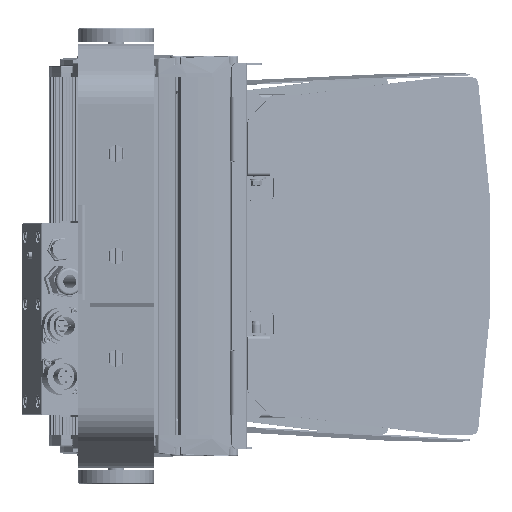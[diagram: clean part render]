
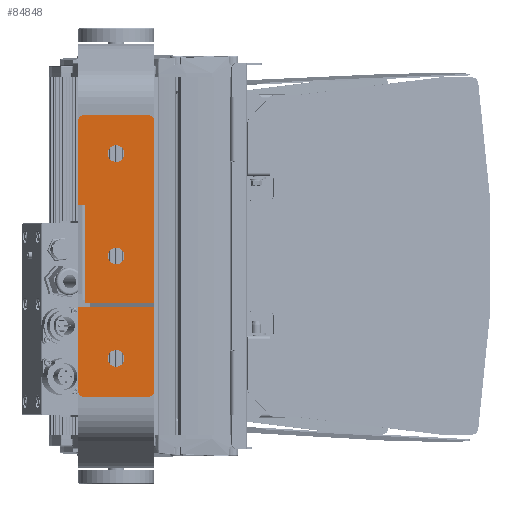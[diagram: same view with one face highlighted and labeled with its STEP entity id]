
A CAD part, front view. The second image highlights one B-rep face of the part: STEP entity #84848.
In plain terms, the highlighted planar face has unit normal (0, -1, 0) as drawn and (0, 0, -1) by its records, which use the part's own axes.
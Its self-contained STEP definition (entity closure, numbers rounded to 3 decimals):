
#4731=FACE_BOUND('',#13201,.T.);
#4732=FACE_BOUND('',#13202,.T.);
#4733=FACE_BOUND('',#13203,.T.);
#5649=PLANE('',#91524);
#8207=FACE_OUTER_BOUND('',#13200,.T.);
#13200=EDGE_LOOP('',(#58276,#58277,#58278,#58279,#58280,#58281,#58282,#58283,
#58284,#58285,#58286,#58287,#58288,#58289,#58290,#58291,#58292));
#13201=EDGE_LOOP('',(#58293));
#13202=EDGE_LOOP('',(#58294));
#13203=EDGE_LOOP('',(#58295));
#19079=LINE('',#129719,#26117);
#19091=LINE('',#129762,#26129);
#19092=LINE('',#129766,#26130);
#19093=LINE('',#129770,#26131);
#19094=LINE('',#129772,#26132);
#19095=LINE('',#129776,#26133);
#19096=LINE('',#129778,#26134);
#19097=LINE('',#129780,#26135);
#19098=LINE('',#129782,#26136);
#19099=LINE('',#129786,#26137);
#19100=LINE('',#129787,#26138);
#26117=VECTOR('',#102124,10.);
#26129=VECTOR('',#102160,10.);
#26130=VECTOR('',#102163,10.);
#26131=VECTOR('',#102166,10.);
#26132=VECTOR('',#102167,10.);
#26133=VECTOR('',#102170,10.);
#26134=VECTOR('',#102171,10.);
#26135=VECTOR('',#102172,10.);
#26136=VECTOR('',#102173,10.);
#26137=VECTOR('',#102176,10.);
#26138=VECTOR('',#102177,10.);
#33108=CIRCLE('',#91511,5.);
#33117=CIRCLE('',#91523,5.);
#33118=CIRCLE('',#91525,5.);
#33119=CIRCLE('',#91526,5.);
#33120=CIRCLE('',#91527,0.1);
#33121=CIRCLE('',#91528,0.1);
#33122=CIRCLE('',#91529,6.5);
#33123=CIRCLE('',#91530,6.5);
#33124=CIRCLE('',#91531,6.5);
#37521=VERTEX_POINT('',#129709);
#37522=VERTEX_POINT('',#129711);
#37524=VERTEX_POINT('',#129717);
#37542=VERTEX_POINT('',#129757);
#37543=VERTEX_POINT('',#129761);
#37544=VERTEX_POINT('',#129763);
#37545=VERTEX_POINT('',#129765);
#37546=VERTEX_POINT('',#129767);
#37547=VERTEX_POINT('',#129769);
#37548=VERTEX_POINT('',#129771);
#37549=VERTEX_POINT('',#129773);
#37550=VERTEX_POINT('',#129775);
#37551=VERTEX_POINT('',#129777);
#37552=VERTEX_POINT('',#129779);
#37553=VERTEX_POINT('',#129781);
#37554=VERTEX_POINT('',#129783);
#37555=VERTEX_POINT('',#129785);
#37556=VERTEX_POINT('',#129788);
#37557=VERTEX_POINT('',#129790);
#37558=VERTEX_POINT('',#129792);
#45540=EDGE_CURVE('',#37521,#37522,#33108,.T.);
#45544=EDGE_CURVE('',#37524,#37521,#19079,.T.);
#45564=EDGE_CURVE('',#37542,#37524,#33117,.T.);
#45565=EDGE_CURVE('',#37543,#37542,#19091,.T.);
#45566=EDGE_CURVE('',#37544,#37543,#33118,.T.);
#45567=EDGE_CURVE('',#37545,#37544,#19092,.T.);
#45568=EDGE_CURVE('',#37546,#37545,#33119,.T.);
#45569=EDGE_CURVE('',#37547,#37546,#19093,.T.);
#45570=EDGE_CURVE('',#37547,#37548,#19094,.T.);
#45571=EDGE_CURVE('',#37548,#37549,#33120,.T.);
#45572=EDGE_CURVE('',#37549,#37550,#19095,.T.);
#45573=EDGE_CURVE('',#37550,#37551,#19096,.T.);
#45574=EDGE_CURVE('',#37551,#37552,#19097,.T.);
#45575=EDGE_CURVE('',#37552,#37553,#19098,.T.);
#45576=EDGE_CURVE('',#37553,#37554,#33121,.T.);
#45577=EDGE_CURVE('',#37554,#37555,#19099,.T.);
#45578=EDGE_CURVE('',#37522,#37555,#19100,.T.);
#45579=EDGE_CURVE('',#37556,#37556,#33122,.T.);
#45580=EDGE_CURVE('',#37557,#37557,#33123,.T.);
#45581=EDGE_CURVE('',#37558,#37558,#33124,.T.);
#58276=ORIENTED_EDGE('',*,*,#45540,.F.);
#58277=ORIENTED_EDGE('',*,*,#45544,.F.);
#58278=ORIENTED_EDGE('',*,*,#45564,.F.);
#58279=ORIENTED_EDGE('',*,*,#45565,.F.);
#58280=ORIENTED_EDGE('',*,*,#45566,.F.);
#58281=ORIENTED_EDGE('',*,*,#45567,.F.);
#58282=ORIENTED_EDGE('',*,*,#45568,.F.);
#58283=ORIENTED_EDGE('',*,*,#45569,.F.);
#58284=ORIENTED_EDGE('',*,*,#45570,.T.);
#58285=ORIENTED_EDGE('',*,*,#45571,.T.);
#58286=ORIENTED_EDGE('',*,*,#45572,.T.);
#58287=ORIENTED_EDGE('',*,*,#45573,.T.);
#58288=ORIENTED_EDGE('',*,*,#45574,.T.);
#58289=ORIENTED_EDGE('',*,*,#45575,.T.);
#58290=ORIENTED_EDGE('',*,*,#45576,.T.);
#58291=ORIENTED_EDGE('',*,*,#45577,.T.);
#58292=ORIENTED_EDGE('',*,*,#45578,.F.);
#58293=ORIENTED_EDGE('',*,*,#45579,.T.);
#58294=ORIENTED_EDGE('',*,*,#45580,.T.);
#58295=ORIENTED_EDGE('',*,*,#45581,.T.);
#84848=ADVANCED_FACE('',(#8207,#4731,#4732,#4733),#5649,.F.);
#91511=AXIS2_PLACEMENT_3D('',#129712,#102117,#102118);
#91523=AXIS2_PLACEMENT_3D('',#129759,#102156,#102157);
#91524=AXIS2_PLACEMENT_3D('',#129760,#102158,#102159);
#91525=AXIS2_PLACEMENT_3D('',#129764,#102161,#102162);
#91526=AXIS2_PLACEMENT_3D('',#129768,#102164,#102165);
#91527=AXIS2_PLACEMENT_3D('',#129774,#102168,#102169);
#91528=AXIS2_PLACEMENT_3D('',#129784,#102174,#102175);
#91529=AXIS2_PLACEMENT_3D('',#129789,#102178,#102179);
#91530=AXIS2_PLACEMENT_3D('',#129791,#102180,#102181);
#91531=AXIS2_PLACEMENT_3D('',#129793,#102182,#102183);
#102117=DIRECTION('center_axis',(0.,0.,1.));
#102118=DIRECTION('ref_axis',(0.707,0.707,0.));
#102124=DIRECTION('',(0.,1.,0.));
#102156=DIRECTION('center_axis',(0.,0.,1.));
#102157=DIRECTION('ref_axis',(0.707,-0.707,0.));
#102158=DIRECTION('center_axis',(0.,0.,1.));
#102159=DIRECTION('ref_axis',(1.,0.,0.));
#102160=DIRECTION('',(1.,0.,0.));
#102161=DIRECTION('center_axis',(0.,0.,1.));
#102162=DIRECTION('ref_axis',(-0.707,-0.707,0.));
#102163=DIRECTION('',(0.,-1.,0.));
#102164=DIRECTION('center_axis',(0.,0.,1.));
#102165=DIRECTION('ref_axis',(-0.707,0.707,0.));
#102166=DIRECTION('',(-1.,0.,0.));
#102167=DIRECTION('',(0.,-1.,0.));
#102168=DIRECTION('center_axis',(0.,0.,1.));
#102169=DIRECTION('ref_axis',(1.,0.,0.));
#102170=DIRECTION('',(0.,1.,0.));
#102171=DIRECTION('',(1.,0.,0.));
#102172=DIRECTION('',(1.,0.,0.));
#102173=DIRECTION('',(0.,-1.,0.));
#102174=DIRECTION('center_axis',(0.,0.,1.));
#102175=DIRECTION('ref_axis',(-1.,0.,0.));
#102176=DIRECTION('',(0.,1.,0.));
#102177=DIRECTION('',(-1.,0.,0.));
#102178=DIRECTION('center_axis',(0.,0.,1.));
#102179=DIRECTION('ref_axis',(1.,0.,0.));
#102180=DIRECTION('center_axis',(0.,0.,1.));
#102181=DIRECTION('ref_axis',(1.,0.,0.));
#102182=DIRECTION('center_axis',(0.,0.,1.));
#102183=DIRECTION('ref_axis',(1.,0.,0.));
#129709=CARTESIAN_POINT('',(110.,25.,0.));
#129711=CARTESIAN_POINT('',(105.,30.,0.));
#129712=CARTESIAN_POINT('Origin',(105.,25.,0.));
#129717=CARTESIAN_POINT('',(110.,-25.,0.));
#129719=CARTESIAN_POINT('',(110.,-30.,0.));
#129757=CARTESIAN_POINT('',(105.,-30.,0.));
#129759=CARTESIAN_POINT('Origin',(105.,-25.,0.));
#129760=CARTESIAN_POINT('Origin',(0.,0.,0.));
#129761=CARTESIAN_POINT('',(-105.,-30.,0.));
#129762=CARTESIAN_POINT('',(-110.,-30.,0.));
#129763=CARTESIAN_POINT('',(-110.,-25.,0.));
#129764=CARTESIAN_POINT('Origin',(-105.,-25.,0.));
#129765=CARTESIAN_POINT('',(-110.,25.,0.));
#129766=CARTESIAN_POINT('',(-110.,30.,0.));
#129767=CARTESIAN_POINT('',(-105.,30.,0.));
#129768=CARTESIAN_POINT('Origin',(-105.,25.,0.));
#129769=CARTESIAN_POINT('',(-40.2,30.,0.));
#129770=CARTESIAN_POINT('',(110.,30.,0.));
#129771=CARTESIAN_POINT('',(-40.2,23.9,0.));
#129772=CARTESIAN_POINT('',(-40.2,11.95,0.));
#129773=CARTESIAN_POINT('',(-40.,23.9,0.));
#129774=CARTESIAN_POINT('Origin',(-40.1,23.9,0.));
#129775=CARTESIAN_POINT('',(-40.,24.,0.));
#129776=CARTESIAN_POINT('',(-40.,15.,0.));
#129777=CARTESIAN_POINT('',(34.,24.,0.));
#129778=CARTESIAN_POINT('',(20.,24.,0.));
#129779=CARTESIAN_POINT('',(40.,24.,0.));
#129780=CARTESIAN_POINT('',(20.,24.,0.));
#129781=CARTESIAN_POINT('',(40.,23.9,0.));
#129782=CARTESIAN_POINT('',(40.,11.95,0.));
#129783=CARTESIAN_POINT('',(40.2,23.9,0.));
#129784=CARTESIAN_POINT('Origin',(40.1,23.9,0.));
#129785=CARTESIAN_POINT('',(40.2,30.,0.));
#129786=CARTESIAN_POINT('',(40.2,15.,0.));
#129787=CARTESIAN_POINT('',(110.,30.,0.));
#129788=CARTESIAN_POINT('',(73.5,0.,0.));
#129789=CARTESIAN_POINT('Origin',(80.,0.,0.));
#129790=CARTESIAN_POINT('',(-6.5,0.,0.));
#129791=CARTESIAN_POINT('Origin',(0.,0.,0.));
#129792=CARTESIAN_POINT('',(-86.5,0.,0.));
#129793=CARTESIAN_POINT('Origin',(-80.,0.,0.));
